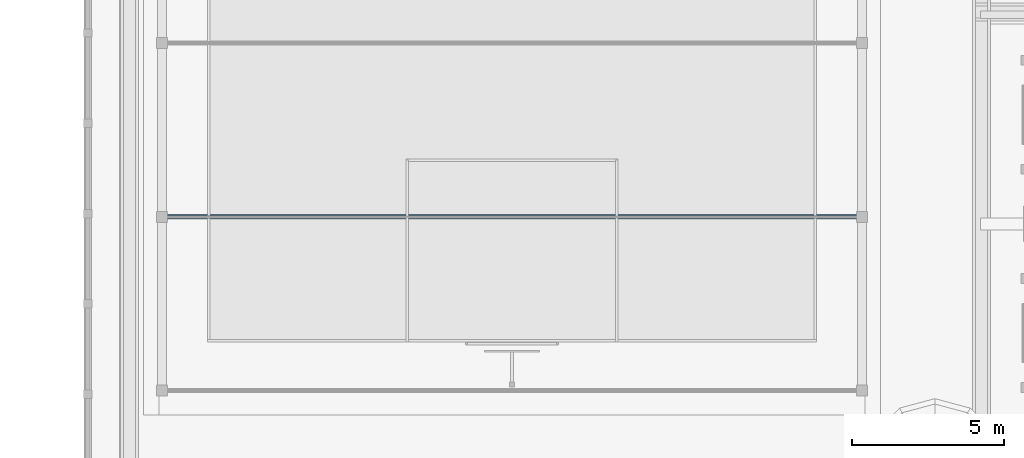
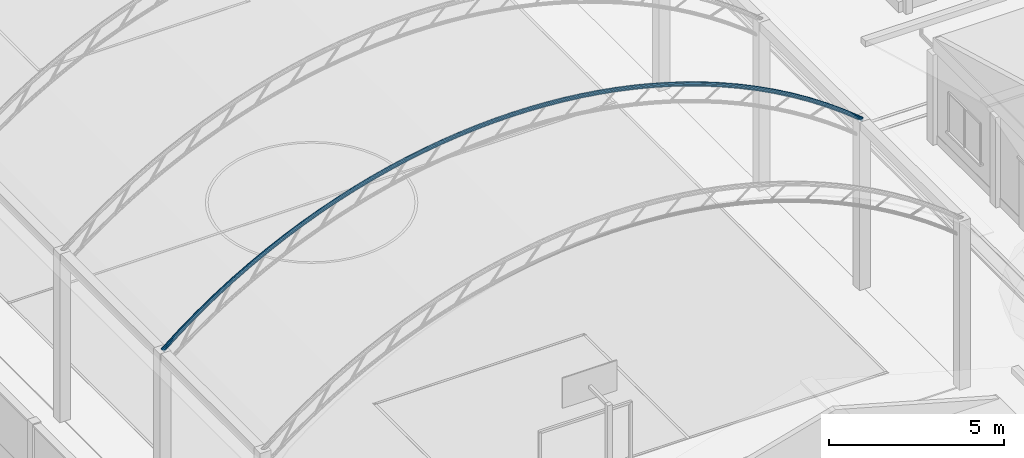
# One storey, part 19 of 177: 1 beam.
"""IFC4 building model written with IfcOpenShell, lengths in metres."""

from ifc_helpers import new_model, si_unit, origin, origin_with_axes, place, context, subcontext, project, spatial, triangles, element, save


model = new_model("IFC4")

# Units and contexts
model_context = context("Model", 3, precision=1e-05, world=origin_with_axes())
body_context = subcontext(model_context, "Body", "Model", "MODEL_VIEW")
ifc_project = project(units=[si_unit("LENGTHUNIT", "METRE"), si_unit("AREAUNIT", "SQUARE_METRE"), si_unit("VOLUMEUNIT", "CUBIC_METRE"), si_unit("PLANEANGLEUNIT", "RADIAN")], contexts=[model_context])

# Site, building, storey
site_placement = place(None, origin_with_axes())
site = spatial("IfcSite", under=ifc_project, at=site_placement, Name="Predio Los Mangos - Morales, San Martín", CompositionType="ELEMENT")
building_placement = place(site_placement, origin())
building = spatial("IfcBuilding", under=site, at=building_placement, Name="Hogar de Refugio Temporal", CompositionType="ELEMENT")
storey_placement = place(building_placement, origin())
storey = spatial("IfcBuildingStorey", under=building, at=storey_placement, Name="NIVEL 1 (NPT +0.00)", CompositionType="ELEMENT", Elevation=0.0)

# Beam
beam_placement = place(storey_placement, origin())
element("IfcBeam", 1, at=beam_placement, inside=storey, Name="arco", ObjectType="Viga", PredefinedType="BEAM", context=body_context, shape_type="Tessellation", body=[
    triangles([(3.4781, 98.394, 5.9773), (3.462, 98.3683, 5.9973), (3.4562, 98.3333, 6.0046), (3.462, 98.2983, 5.9973), (3.4781, 98.2727, 5.9773), (3.5, 98.2633, 5.95), (3.5219, 98.2727, 5.9227), (3.538, 98.2983, 5.9027), (3.5438, 98.3333, 5.8954), (3.538, 98.3683, 5.9027), (3.5219, 98.394, 5.9227), (3.5, 98.4033, 5.95), (4.0561, 98.394, 6.4418), (4.0405, 98.3683, 6.4621), (4.0348, 98.3333, 6.4695), (4.0405, 98.2983, 6.4621), (4.0561, 98.2727, 6.4418), (4.0775, 98.2633, 6.4141), (4.0989, 98.2727, 6.3864), (4.1145, 98.2983, 6.3661), (4.1202, 98.3333, 6.3586), (4.1145, 98.3683, 6.3661), (4.0989, 98.394, 6.3864), (4.0775, 98.4033, 6.4141), (4.6348, 98.394, 6.8694), (4.6199, 98.3683, 6.8903), (4.6145, 98.3333, 6.8979), (4.6199, 98.2983, 6.8903), (4.6348, 98.2727, 6.8694), (4.655, 98.2633, 6.8408), (4.6752, 98.2727, 6.8123), (4.6901, 98.2983, 6.7914), (4.6955, 98.3333, 6.7837), (4.6901, 98.3683, 6.7914), (4.6752, 98.394, 6.8123), (4.655, 98.4033, 6.8408), (5.2134, 98.394, 7.2627), (5.1994, 98.3683, 7.2841), (5.1943, 98.3333, 7.292), (5.1994, 98.2983, 7.2841), (5.2134, 98.2727, 7.2627), (5.2325, 98.2633, 7.2333), (5.2516, 98.2727, 7.204), (5.2656, 98.2983, 7.1826), (5.2707, 98.3333, 7.1747), (5.2656, 98.3683, 7.1826), (5.2516, 98.394, 7.204), (5.2325, 98.4033, 7.2333), (5.792, 98.394, 7.6243), (5.7788, 98.3683, 7.6463), (5.774, 98.3333, 7.6543), (5.7788, 98.2983, 7.6463), (5.792, 98.2727, 7.6243), (5.81, 98.2633, 7.5943), (5.828, 98.2727, 7.5643), (5.8412, 98.2983, 7.5423), (5.846, 98.3333, 7.5343), (5.8412, 98.3683, 7.5423), (5.828, 98.394, 7.5643), (5.81, 98.4033, 7.5943), (6.3706, 98.394, 7.9565), (6.3583, 98.3683, 7.979), (6.3538, 98.3333, 7.9872), (6.3583, 98.2983, 7.979), (6.3706, 98.2727, 7.9565), (6.3875, 98.2633, 7.9259), (6.4044, 98.2727, 7.8952), (6.4167, 98.2983, 7.8727), (6.4212, 98.3333, 7.8645), (6.4167, 98.3683, 7.8727), (6.4044, 98.394, 7.8952), (6.3875, 98.4033, 7.9259), (6.9493, 98.394, 8.2611), (6.9377, 98.3683, 8.284), (6.9335, 98.3333, 8.2923), (6.9377, 98.2983, 8.284), (6.9493, 98.2727, 8.2611), (6.965, 98.2633, 8.2298), (6.9807, 98.2727, 8.1986), (6.9923, 98.2983, 8.1757), (6.9965, 98.3333, 8.1673), (6.9923, 98.3683, 8.1757), (6.9807, 98.394, 8.1986), (6.965, 98.4033, 8.2298), (7.5279, 98.394, 8.5395), (7.5172, 98.3683, 8.5628), (7.5133, 98.3333, 8.5713), (7.5172, 98.2983, 8.5628), (7.5279, 98.2727, 8.5395), (7.5425, 98.2633, 8.5077), (7.5571, 98.2727, 8.4759), (7.5678, 98.2983, 8.4527), (7.5717, 98.3333, 8.4441), (7.5678, 98.3683, 8.4527), (7.5571, 98.394, 8.4759), (7.5425, 98.4033, 8.5077), (8.1065, 98.394, 8.7932), (8.0966, 98.3683, 8.8169), (8.093, 98.3333, 8.8255), (8.0966, 98.2983, 8.8169), (8.1065, 98.2727, 8.7932), (8.12, 98.2633, 8.7609), (8.1335, 98.2727, 8.7286), (8.1434, 98.2983, 8.705), (8.147, 98.3333, 8.6963), (8.1434, 98.3683, 8.705), (8.1335, 98.394, 8.7286), (8.12, 98.4033, 8.7609), (8.6851, 98.394, 9.0232), (8.6761, 98.3683, 9.0472), (8.6728, 98.3333, 9.056), (8.6761, 98.2983, 9.0472), (8.6851, 98.2727, 9.0232), (8.6975, 98.2633, 8.9905), (8.7099, 98.2727, 8.9578), (8.7189, 98.2983, 8.9338), (8.7222, 98.3333, 8.925), (8.7189, 98.3683, 8.9338), (8.7099, 98.394, 8.9578), (8.6975, 98.4033, 8.9905), (9.2638, 98.394, 9.2305), (9.2555, 98.3683, 9.2548), (9.2525, 98.3333, 9.2637), (9.2555, 98.2983, 9.2548), (9.2638, 98.2727, 9.2305), (9.275, 98.2633, 9.1974), (9.2862, 98.2727, 9.1642), (9.2945, 98.2983, 9.14), (9.2975, 98.3333, 9.1311), (9.2945, 98.3683, 9.14), (9.2862, 98.394, 9.1642), (9.275, 98.4033, 9.1974), (9.8424, 98.394, 9.416), (9.835, 98.3683, 9.4405), (9.8323, 98.3333, 9.4495), (9.835, 98.2983, 9.4405), (9.8424, 98.2727, 9.416), (9.8525, 98.2633, 9.3824), (9.8626, 98.2727, 9.3489), (9.87, 98.2983, 9.3244), (9.8727, 98.3333, 9.3154), (9.87, 98.3683, 9.3244), (9.8626, 98.394, 9.3489), (9.8525, 98.4033, 9.3824), (10.421, 98.394, 9.5802), (10.4144, 98.3683, 9.6049), (10.412, 98.3333, 9.614), (10.4144, 98.2983, 9.6049), (10.421, 98.2727, 9.5802), (10.43, 98.2633, 9.5463), (10.439, 98.2727, 9.5125), (10.4456, 98.2983, 9.4878), (10.448, 98.3333, 9.4787), (10.4456, 98.3683, 9.4878), (10.439, 98.394, 9.5125), (10.43, 98.4033, 9.5463), (10.9996, 98.394, 9.7238), (10.9939, 98.3683, 9.7488), (10.9918, 98.3333, 9.7579), (10.9939, 98.2983, 9.7488), (10.9996, 98.2727, 9.7238), (11.0075, 98.2633, 9.6897), (11.0154, 98.2727, 9.6556), (11.0211, 98.2983, 9.6306), (11.0232, 98.3333, 9.6215), (11.0211, 98.3683, 9.6306), (11.0154, 98.394, 9.6556), (11.0075, 98.4033, 9.6897), (11.5783, 98.394, 9.8473), (11.5733, 98.3683, 9.8725), (11.5715, 98.3333, 9.8817), (11.5733, 98.2983, 9.8725), (11.5783, 98.2727, 9.8473), (11.585, 98.2633, 9.813), (11.5917, 98.2727, 9.7786), (11.5967, 98.2983, 9.7535), (11.5985, 98.3333, 9.7443), (11.5967, 98.3683, 9.7535), (11.5917, 98.394, 9.7786), (11.585, 98.4033, 9.813), (12.1569, 98.394, 9.9512), (12.1528, 98.3683, 9.9765), (12.1513, 98.3333, 9.9857), (12.1528, 98.2983, 9.9765), (12.1569, 98.2727, 9.9512), (12.1625, 98.2633, 9.9166), (12.1681, 98.2727, 9.8821), (12.1722, 98.2983, 9.8568), (12.1737, 98.3333, 9.8476), (12.1722, 98.3683, 9.8568), (12.1681, 98.394, 9.8821), (12.1625, 98.4033, 9.9166), (12.7355, 98.394, 10.0357), (12.7322, 98.3683, 10.0611), (12.731, 98.3333, 10.0704), (12.7322, 98.2983, 10.0611), (12.7355, 98.2727, 10.0357), (12.74, 98.2633, 10.001), (12.7445, 98.2727, 9.9663), (12.7478, 98.2983, 9.9409), (12.749, 98.3333, 9.9316), (12.7478, 98.3683, 9.9409), (12.7445, 98.394, 9.9663), (12.74, 98.4033, 10.001), (13.3141, 98.394, 10.1012), (13.3117, 98.3683, 10.1267), (13.3108, 98.3333, 10.136), (13.3117, 98.2983, 10.1267), (13.3141, 98.2727, 10.1012), (13.3175, 98.2633, 10.0663), (13.3209, 98.2727, 10.0315), (13.3233, 98.2983, 10.006), (13.3242, 98.3333, 9.9967), (13.3233, 98.3683, 10.006), (13.3209, 98.394, 10.0315), (13.3175, 98.4033, 10.0663), (13.8928, 98.394, 10.1478), (13.8911, 98.3683, 10.1734), (13.8905, 98.3333, 10.1827), (13.8911, 98.2983, 10.1734), (13.8928, 98.2727, 10.1478), (13.895, 98.2633, 10.1129), (13.8972, 98.2727, 10.0779), (13.8989, 98.2983, 10.0524), (13.8995, 98.3333, 10.043), (13.8989, 98.3683, 10.0524), (13.8972, 98.394, 10.0779), (13.895, 98.4033, 10.1129), (14.4714, 98.394, 10.1757), (14.4706, 98.3683, 10.2013), (14.4703, 98.3333, 10.2107), (14.4706, 98.2983, 10.2013), (14.4714, 98.2727, 10.1757), (14.4725, 98.2633, 10.1407), (14.4736, 98.2727, 10.1057), (14.4744, 98.2983, 10.0801), (14.4747, 98.3333, 10.0708), (14.4744, 98.3683, 10.0801), (14.4736, 98.394, 10.1057), (14.4725, 98.4033, 10.1407), (15.05, 98.394, 10.185), (15.05, 98.3683, 10.2106), (15.05, 98.3333, 10.22), (15.05, 98.2983, 10.2106), (15.05, 98.2727, 10.185), (15.05, 98.2633, 10.15), (15.05, 98.2727, 10.115), (15.05, 98.2983, 10.0894), (15.05, 98.3333, 10.08), (15.05, 98.3683, 10.0894), (15.05, 98.394, 10.115), (15.05, 98.4033, 10.15), (15.6286, 98.394, 10.1757), (15.6294, 98.3683, 10.2013), (15.6297, 98.3333, 10.2107), (15.6294, 98.2983, 10.2013), (15.6286, 98.2727, 10.1757), (15.6275, 98.2633, 10.1407), (15.6264, 98.2727, 10.1057), (15.6256, 98.2983, 10.0801), (15.6253, 98.3333, 10.0708), (15.6256, 98.3683, 10.0801), (15.6264, 98.394, 10.1057), (15.6275, 98.4033, 10.1407), (16.2072, 98.394, 10.1478), (16.2089, 98.3683, 10.1734), (16.2095, 98.3333, 10.1827), (16.2089, 98.2983, 10.1734), (16.2072, 98.2727, 10.1478), (16.205, 98.2633, 10.1129), (16.2028, 98.2727, 10.0779), (16.2011, 98.2983, 10.0524), (16.2005, 98.3333, 10.043), (16.2011, 98.3683, 10.0524), (16.2028, 98.394, 10.0779), (16.205, 98.4033, 10.1129), (16.7859, 98.394, 10.1012), (16.7883, 98.3683, 10.1267), (16.7892, 98.3333, 10.136), (16.7883, 98.2983, 10.1267), (16.7859, 98.2727, 10.1012), (16.7825, 98.2633, 10.0663), (16.7791, 98.2727, 10.0315), (16.7767, 98.2983, 10.006), (16.7758, 98.3333, 9.9967), (16.7767, 98.3683, 10.006), (16.7791, 98.394, 10.0315), (16.7825, 98.4033, 10.0663), (17.3645, 98.394, 10.0357), (17.3678, 98.3683, 10.0611), (17.369, 98.3333, 10.0704), (17.3678, 98.2983, 10.0611), (17.3645, 98.2727, 10.0357), (17.36, 98.2633, 10.001), (17.3555, 98.2727, 9.9663), (17.3522, 98.2983, 9.9409), (17.351, 98.3333, 9.9316), (17.3522, 98.3683, 9.9409), (17.3555, 98.394, 9.9663), (17.36, 98.4033, 10.001), (17.9431, 98.394, 9.9512), (17.9472, 98.3683, 9.9765), (17.9487, 98.3333, 9.9857), (17.9472, 98.2983, 9.9765), (17.9431, 98.2727, 9.9512), (17.9375, 98.2633, 9.9166), (17.9319, 98.2727, 9.8821), (17.9278, 98.2983, 9.8568), (17.9263, 98.3333, 9.8476), (17.9278, 98.3683, 9.8568), (17.9319, 98.394, 9.8821), (17.9375, 98.4033, 9.9166), (18.5217, 98.394, 9.8473), (18.5267, 98.3683, 9.8725), (18.5285, 98.3333, 9.8817), (18.5267, 98.2983, 9.8725), (18.5217, 98.2727, 9.8473), (18.515, 98.2633, 9.813), (18.5083, 98.2727, 9.7786), (18.5033, 98.2983, 9.7535), (18.5015, 98.3333, 9.7443), (18.5033, 98.3683, 9.7535), (18.5083, 98.394, 9.7786), (18.515, 98.4033, 9.813), (19.1004, 98.394, 9.7238), (19.1061, 98.3683, 9.7488), (19.1082, 98.3333, 9.7579), (19.1061, 98.2983, 9.7488), (19.1004, 98.2727, 9.7238), (19.0925, 98.2633, 9.6897), (19.0846, 98.2727, 9.6556), (19.0789, 98.2983, 9.6306), (19.0768, 98.3333, 9.6215), (19.0789, 98.3683, 9.6306), (19.0846, 98.394, 9.6556), (19.0925, 98.4033, 9.6897), (19.679, 98.394, 9.5802), (19.6856, 98.3683, 9.6049), (19.688, 98.3333, 9.614), (19.6856, 98.2983, 9.6049), (19.679, 98.2727, 9.5802), (19.67, 98.2633, 9.5463), (19.661, 98.2727, 9.5125), (19.6544, 98.2983, 9.4878), (19.652, 98.3333, 9.4787), (19.6544, 98.3683, 9.4878), (19.661, 98.394, 9.5125), (19.67, 98.4033, 9.5463), (20.2576, 98.394, 9.416), (20.265, 98.3683, 9.4405), (20.2677, 98.3333, 9.4495), (20.265, 98.2983, 9.4405), (20.2576, 98.2727, 9.416), (20.2475, 98.2633, 9.3824), (20.2374, 98.2727, 9.3489), (20.23, 98.2983, 9.3244), (20.2273, 98.3333, 9.3154), (20.23, 98.3683, 9.3244), (20.2374, 98.394, 9.3489), (20.2475, 98.4033, 9.3824), (20.8362, 98.394, 9.2305), (20.8445, 98.3683, 9.2548), (20.8475, 98.3333, 9.2637), (20.8445, 98.2983, 9.2548), (20.8362, 98.2727, 9.2305), (20.825, 98.2633, 9.1974), (20.8138, 98.2727, 9.1642), (20.8055, 98.2983, 9.14), (20.8025, 98.3333, 9.1311), (20.8055, 98.3683, 9.14), (20.8138, 98.394, 9.1642), (20.825, 98.4033, 9.1974), (21.4149, 98.394, 9.0232), (21.4239, 98.3683, 9.0472), (21.4272, 98.3333, 9.056), (21.4239, 98.2983, 9.0472), (21.4149, 98.2727, 9.0232), (21.4025, 98.2633, 8.9905), (21.3901, 98.2727, 8.9578), (21.3811, 98.2983, 8.9338), (21.3778, 98.3333, 8.925), (21.3811, 98.3683, 8.9338), (21.3901, 98.394, 8.9578), (21.4025, 98.4033, 8.9905), (21.9935, 98.394, 8.7932), (22.0034, 98.3683, 8.8169), (22.007, 98.3333, 8.8255), (22.0034, 98.2983, 8.8169), (21.9935, 98.2727, 8.7932), (21.98, 98.2633, 8.7609), (21.9665, 98.2727, 8.7286), (21.9566, 98.2983, 8.705), (21.953, 98.3333, 8.6963), (21.9566, 98.3683, 8.705), (21.9665, 98.394, 8.7286), (21.98, 98.4033, 8.7609), (22.5721, 98.394, 8.5395), (22.5828, 98.3683, 8.5628), (22.5867, 98.3333, 8.5713), (22.5828, 98.2983, 8.5628), (22.5721, 98.2727, 8.5395), (22.5575, 98.2633, 8.5077), (22.5429, 98.2727, 8.4759), (22.5322, 98.2983, 8.4527), (22.5283, 98.3333, 8.4441), (22.5322, 98.3683, 8.4527), (22.5429, 98.394, 8.4759), (22.5575, 98.4033, 8.5077), (23.1507, 98.394, 8.2611), (23.1623, 98.3683, 8.284), (23.1665, 98.3333, 8.2923), (23.1623, 98.2983, 8.284), (23.1507, 98.2727, 8.2611), (23.135, 98.2633, 8.2298), (23.1193, 98.2727, 8.1986), (23.1077, 98.2983, 8.1757), (23.1035, 98.3333, 8.1673), (23.1077, 98.3683, 8.1757), (23.1193, 98.394, 8.1986), (23.135, 98.4033, 8.2298), (23.7294, 98.394, 7.9565), (23.7417, 98.3683, 7.979), (23.7462, 98.3333, 7.9872), (23.7417, 98.2983, 7.979), (23.7294, 98.2727, 7.9565), (23.7125, 98.2633, 7.9259), (23.6956, 98.2727, 7.8952), (23.6833, 98.2983, 7.8727), (23.6788, 98.3333, 7.8645), (23.6833, 98.3683, 7.8727), (23.6956, 98.394, 7.8952), (23.7125, 98.4033, 7.9259), (24.308, 98.394, 7.6243), (24.3212, 98.3683, 7.6463), (24.326, 98.3333, 7.6543), (24.3212, 98.2983, 7.6463), (24.308, 98.2727, 7.6243), (24.29, 98.2633, 7.5943), (24.272, 98.2727, 7.5643), (24.2588, 98.2983, 7.5423), (24.254, 98.3333, 7.5343), (24.2588, 98.3683, 7.5423), (24.272, 98.394, 7.5643), (24.29, 98.4033, 7.5943), (24.8866, 98.394, 7.2627), (24.9006, 98.3683, 7.2841), (24.9057, 98.3333, 7.292), (24.9006, 98.2983, 7.2841), (24.8866, 98.2727, 7.2627), (24.8675, 98.2633, 7.2333), (24.8484, 98.2727, 7.204), (24.8344, 98.2983, 7.1826), (24.8293, 98.3333, 7.1747), (24.8344, 98.3683, 7.1826), (24.8484, 98.394, 7.204), (24.8675, 98.4033, 7.2333), (25.4652, 98.394, 6.8694), (25.4801, 98.3683, 6.8903), (25.4855, 98.3333, 6.8979), (25.4801, 98.2983, 6.8903), (25.4652, 98.2727, 6.8694), (25.445, 98.2633, 6.8408), (25.4248, 98.2727, 6.8123), (25.4099, 98.2983, 6.7914), (25.4045, 98.3333, 6.7837), (25.4099, 98.3683, 6.7914), (25.4248, 98.394, 6.8123), (25.445, 98.4033, 6.8408), (26.0439, 98.394, 6.4418), (26.0595, 98.3683, 6.4621), (26.0652, 98.3333, 6.4695), (26.0595, 98.2983, 6.4621), (26.0439, 98.2727, 6.4418), (26.0225, 98.2633, 6.4141), (26.0011, 98.2727, 6.3864), (25.9855, 98.2983, 6.3661), (25.9798, 98.3333, 6.3586), (25.9855, 98.3683, 6.3661), (26.0011, 98.394, 6.3864), (26.0225, 98.4033, 6.4141), (26.6219, 98.394, 5.9773), (26.638, 98.3683, 5.9973), (26.6438, 98.3333, 6.0046), (26.638, 98.2983, 5.9973), (26.6219, 98.2727, 5.9773), (26.6, 98.2633, 5.95), (26.5781, 98.2727, 5.9227), (26.562, 98.2983, 5.9027), (26.5562, 98.3333, 5.8954), (26.562, 98.3683, 5.9027), (26.5781, 98.394, 5.9227), (26.6, 98.4033, 5.95)], [[1, 13, 24], [1, 24, 12], [2, 14, 13], [2, 13, 1], [3, 15, 14], [3, 14, 2], [4, 16, 15], [4, 15, 3], [5, 17, 16], [5, 16, 4], [6, 18, 17], [6, 17, 5], [7, 19, 18], [7, 18, 6], [8, 20, 19], [8, 19, 7], [9, 21, 20], [9, 20, 8], [10, 22, 21], [10, 21, 9], [11, 23, 22], [11, 22, 10], [12, 24, 23], [12, 23, 11], [13, 25, 36], [13, 36, 24], [14, 26, 25], [14, 25, 13], [15, 27, 26], [15, 26, 14], [16, 28, 27], [16, 27, 15], [17, 29, 28], [17, 28, 16], [18, 30, 29], [18, 29, 17], [19, 31, 30], [19, 30, 18], [20, 32, 31], [20, 31, 19], [21, 33, 32], [21, 32, 20], [22, 34, 33], [22, 33, 21], [23, 35, 34], [23, 34, 22], [24, 36, 35], [24, 35, 23], [25, 37, 48], [25, 48, 36], [26, 38, 37], [26, 37, 25], [27, 39, 38], [27, 38, 26], [28, 40, 39], [28, 39, 27], [29, 41, 40], [29, 40, 28], [30, 42, 41], [30, 41, 29], [31, 43, 42], [31, 42, 30], [32, 44, 43], [32, 43, 31], [33, 45, 44], [33, 44, 32], [34, 46, 45], [34, 45, 33], [35, 47, 46], [35, 46, 34], [36, 48, 47], [36, 47, 35], [37, 49, 60], [37, 60, 48], [38, 50, 49], [38, 49, 37], [39, 51, 50], [39, 50, 38], [40, 52, 51], [40, 51, 39], [41, 53, 52], [41, 52, 40], [42, 54, 53], [42, 53, 41], [43, 55, 54], [43, 54, 42], [44, 56, 55], [44, 55, 43], [45, 57, 56], [45, 56, 44], [46, 58, 57], [46, 57, 45], [47, 59, 58], [47, 58, 46], [48, 60, 59], [48, 59, 47], [49, 61, 72], [49, 72, 60], [50, 62, 61], [50, 61, 49], [51, 63, 62], [51, 62, 50], [52, 64, 63], [52, 63, 51], [53, 65, 64], [53, 64, 52], [54, 66, 65], [54, 65, 53], [55, 67, 66], [55, 66, 54], [56, 68, 67], [56, 67, 55], [57, 69, 68], [57, 68, 56], [58, 70, 69], [58, 69, 57], [59, 71, 70], [59, 70, 58], [60, 72, 71], [60, 71, 59], [61, 73, 84], [61, 84, 72], [62, 74, 73], [62, 73, 61], [63, 75, 74], [63, 74, 62], [64, 76, 75], [64, 75, 63], [65, 77, 76], [65, 76, 64], [66, 78, 77], [66, 77, 65], [67, 79, 78], [67, 78, 66], [68, 80, 79], [68, 79, 67], [69, 81, 80], [69, 80, 68], [70, 82, 81], [70, 81, 69], [71, 83, 82], [71, 82, 70], [72, 84, 83], [72, 83, 71], [73, 85, 96], [73, 96, 84], [74, 86, 85], [74, 85, 73], [75, 87, 86], [75, 86, 74], [76, 88, 87], [76, 87, 75], [77, 89, 88], [77, 88, 76], [78, 90, 89], [78, 89, 77], [79, 91, 90], [79, 90, 78], [80, 92, 91], [80, 91, 79], [81, 93, 92], [81, 92, 80], [82, 94, 93], [82, 93, 81], [83, 95, 94], [83, 94, 82], [84, 96, 95], [84, 95, 83], [85, 97, 108], [85, 108, 96], [86, 98, 97], [86, 97, 85], [87, 99, 98], [87, 98, 86], [88, 100, 99], [88, 99, 87], [89, 101, 100], [89, 100, 88], [90, 102, 101], [90, 101, 89], [91, 103, 102], [91, 102, 90], [92, 104, 103], [92, 103, 91], [93, 105, 104], [93, 104, 92], [94, 106, 105], [94, 105, 93], [95, 107, 106], [95, 106, 94], [96, 108, 107], [96, 107, 95], [97, 109, 120], [97, 120, 108], [98, 110, 109], [98, 109, 97], [99, 111, 110], [99, 110, 98], [100, 112, 111], [100, 111, 99], [101, 113, 112], [101, 112, 100], [102, 114, 113], [102, 113, 101], [103, 115, 114], [103, 114, 102], [104, 116, 115], [104, 115, 103], [105, 117, 116], [105, 116, 104], [106, 118, 117], [106, 117, 105], [107, 119, 118], [107, 118, 106], [108, 120, 119], [108, 119, 107], [109, 121, 132], [109, 132, 120], [110, 122, 121], [110, 121, 109], [111, 123, 122], [111, 122, 110], [112, 124, 123], [112, 123, 111], [113, 125, 124], [113, 124, 112], [114, 126, 125], [114, 125, 113], [115, 127, 126], [115, 126, 114], [116, 128, 127], [116, 127, 115], [117, 129, 128], [117, 128, 116], [118, 130, 129], [118, 129, 117], [119, 131, 130], [119, 130, 118], [120, 132, 131], [120, 131, 119], [121, 133, 144], [121, 144, 132], [122, 134, 133], [122, 133, 121], [123, 135, 134], [123, 134, 122], [124, 136, 135], [124, 135, 123], [125, 137, 136], [125, 136, 124], [126, 138, 137], [126, 137, 125], [127, 139, 138], [127, 138, 126], [128, 140, 139], [128, 139, 127], [129, 141, 140], [129, 140, 128], [130, 142, 141], [130, 141, 129], [131, 143, 142], [131, 142, 130], [132, 144, 143], [132, 143, 131], [133, 145, 156], [133, 156, 144], [134, 146, 145], [134, 145, 133], [135, 147, 146], [135, 146, 134], [136, 148, 147], [136, 147, 135], [137, 149, 148], [137, 148, 136], [138, 150, 149], [138, 149, 137], [139, 151, 150], [139, 150, 138], [140, 152, 151], [140, 151, 139], [141, 153, 152], [141, 152, 140], [142, 154, 153], [142, 153, 141], [143, 155, 154], [143, 154, 142], [144, 156, 155], [144, 155, 143], [145, 157, 168], [145, 168, 156], [146, 158, 157], [146, 157, 145], [147, 159, 158], [147, 158, 146], [148, 160, 159], [148, 159, 147], [149, 161, 160], [149, 160, 148], [150, 162, 161], [150, 161, 149], [151, 163, 162], [151, 162, 150], [152, 164, 163], [152, 163, 151], [153, 165, 164], [153, 164, 152], [154, 166, 165], [154, 165, 153], [155, 167, 166], [155, 166, 154], [156, 168, 167], [156, 167, 155], [157, 169, 180], [157, 180, 168], [158, 170, 169], [158, 169, 157], [159, 171, 170], [159, 170, 158], [160, 172, 171], [160, 171, 159], [161, 173, 172], [161, 172, 160], [162, 174, 173], [162, 173, 161], [163, 175, 174], [163, 174, 162], [164, 176, 175], [164, 175, 163], [165, 177, 176], [165, 176, 164], [166, 178, 177], [166, 177, 165], [167, 179, 178], [167, 178, 166], [168, 180, 179], [168, 179, 167], [169, 181, 192], [169, 192, 180], [170, 182, 181], [170, 181, 169], [171, 183, 182], [171, 182, 170], [172, 184, 183], [172, 183, 171], [173, 185, 184], [173, 184, 172], [174, 186, 185], [174, 185, 173], [175, 187, 186], [175, 186, 174], [176, 188, 187], [176, 187, 175], [177, 189, 188], [177, 188, 176], [178, 190, 189], [178, 189, 177], [179, 191, 190], [179, 190, 178], [180, 192, 191], [180, 191, 179], [181, 193, 204], [181, 204, 192], [182, 194, 193], [182, 193, 181], [183, 195, 194], [183, 194, 182], [184, 196, 195], [184, 195, 183], [185, 197, 196], [185, 196, 184], [186, 198, 197], [186, 197, 185], [187, 199, 198], [187, 198, 186], [188, 200, 199], [188, 199, 187], [189, 201, 200], [189, 200, 188], [190, 202, 201], [190, 201, 189], [191, 203, 202], [191, 202, 190], [192, 204, 203], [192, 203, 191], [193, 205, 216], [193, 216, 204], [194, 206, 205], [194, 205, 193], [195, 207, 206], [195, 206, 194], [196, 208, 207], [196, 207, 195], [197, 209, 208], [197, 208, 196], [198, 210, 209], [198, 209, 197], [199, 211, 210], [199, 210, 198], [200, 212, 211], [200, 211, 199], [201, 213, 212], [201, 212, 200], [202, 214, 213], [202, 213, 201], [203, 215, 214], [203, 214, 202], [204, 216, 215], [204, 215, 203], [205, 217, 228], [205, 228, 216], [206, 218, 217], [206, 217, 205], [207, 219, 218], [207, 218, 206], [208, 220, 219], [208, 219, 207], [209, 221, 220], [209, 220, 208], [210, 222, 221], [210, 221, 209], [211, 223, 222], [211, 222, 210], [212, 224, 223], [212, 223, 211], [213, 225, 224], [213, 224, 212], [214, 226, 225], [214, 225, 213], [215, 227, 226], [215, 226, 214], [216, 228, 227], [216, 227, 215], [217, 229, 240], [217, 240, 228], [218, 230, 229], [218, 229, 217], [219, 231, 230], [219, 230, 218], [220, 232, 231], [220, 231, 219], [221, 233, 232], [221, 232, 220], [222, 234, 233], [222, 233, 221], [223, 235, 234], [223, 234, 222], [224, 236, 235], [224, 235, 223], [225, 237, 236], [225, 236, 224], [226, 238, 237], [226, 237, 225], [227, 239, 238], [227, 238, 226], [228, 240, 239], [228, 239, 227], [229, 241, 252], [229, 252, 240], [230, 242, 241], [230, 241, 229], [231, 243, 242], [231, 242, 230], [232, 244, 243], [232, 243, 231], [233, 245, 244], [233, 244, 232], [234, 246, 245], [234, 245, 233], [235, 247, 246], [235, 246, 234], [236, 248, 247], [236, 247, 235], [237, 249, 248], [237, 248, 236], [238, 250, 249], [238, 249, 237], [239, 251, 250], [239, 250, 238], [240, 252, 251], [240, 251, 239], [241, 253, 264], [241, 264, 252], [242, 254, 253], [242, 253, 241], [243, 255, 254], [243, 254, 242], [244, 256, 255], [244, 255, 243], [245, 257, 256], [245, 256, 244], [246, 258, 257], [246, 257, 245], [247, 259, 258], [247, 258, 246], [248, 260, 259], [248, 259, 247], [249, 261, 260], [249, 260, 248], [250, 262, 261], [250, 261, 249], [251, 263, 262], [251, 262, 250], [252, 264, 263], [252, 263, 251], [253, 265, 276], [253, 276, 264], [254, 266, 265], [254, 265, 253], [255, 267, 266], [255, 266, 254], [256, 268, 267], [256, 267, 255], [257, 269, 268], [257, 268, 256], [258, 270, 269], [258, 269, 257], [259, 271, 270], [259, 270, 258], [260, 272, 271], [260, 271, 259], [261, 273, 272], [261, 272, 260], [262, 274, 273], [262, 273, 261], [263, 275, 274], [263, 274, 262], [264, 276, 275], [264, 275, 263], [265, 277, 288], [265, 288, 276], [266, 278, 277], [266, 277, 265], [267, 279, 278], [267, 278, 266], [268, 280, 279], [268, 279, 267], [269, 281, 280], [269, 280, 268], [270, 282, 281], [270, 281, 269], [271, 283, 282], [271, 282, 270], [272, 284, 283], [272, 283, 271], [273, 285, 284], [273, 284, 272], [274, 286, 285], [274, 285, 273], [275, 287, 286], [275, 286, 274], [276, 288, 287], [276, 287, 275], [277, 289, 300], [277, 300, 288], [278, 290, 289], [278, 289, 277], [279, 291, 290], [279, 290, 278], [280, 292, 291], [280, 291, 279], [281, 293, 292], [281, 292, 280], [282, 294, 293], [282, 293, 281], [283, 295, 294], [283, 294, 282], [284, 296, 295], [284, 295, 283], [285, 297, 296], [285, 296, 284], [286, 298, 297], [286, 297, 285], [287, 299, 298], [287, 298, 286], [288, 300, 299], [288, 299, 287], [289, 301, 312], [289, 312, 300], [290, 302, 301], [290, 301, 289], [291, 303, 302], [291, 302, 290], [292, 304, 303], [292, 303, 291], [293, 305, 304], [293, 304, 292], [294, 306, 305], [294, 305, 293], [295, 307, 306], [295, 306, 294], [296, 308, 307], [296, 307, 295], [297, 309, 308], [297, 308, 296], [298, 310, 309], [298, 309, 297], [299, 311, 310], [299, 310, 298], [300, 312, 311], [300, 311, 299], [301, 313, 324], [301, 324, 312], [302, 314, 313], [302, 313, 301], [303, 315, 314], [303, 314, 302], [304, 316, 315], [304, 315, 303], [305, 317, 316], [305, 316, 304], [306, 318, 317], [306, 317, 305], [307, 319, 318], [307, 318, 306], [308, 320, 319], [308, 319, 307], [309, 321, 320], [309, 320, 308], [310, 322, 321], [310, 321, 309], [311, 323, 322], [311, 322, 310], [312, 324, 323], [312, 323, 311], [313, 325, 336], [313, 336, 324], [314, 326, 325], [314, 325, 313], [315, 327, 326], [315, 326, 314], [316, 328, 327], [316, 327, 315], [317, 329, 328], [317, 328, 316], [318, 330, 329], [318, 329, 317], [319, 331, 330], [319, 330, 318], [320, 332, 331], [320, 331, 319], [321, 333, 332], [321, 332, 320], [322, 334, 333], [322, 333, 321], [323, 335, 334], [323, 334, 322], [324, 336, 335], [324, 335, 323], [325, 337, 348], [325, 348, 336], [326, 338, 337], [326, 337, 325], [327, 339, 338], [327, 338, 326], [328, 340, 339], [328, 339, 327], [329, 341, 340], [329, 340, 328], [330, 342, 341], [330, 341, 329], [331, 343, 342], [331, 342, 330], [332, 344, 343], [332, 343, 331], [333, 345, 344], [333, 344, 332], [334, 346, 345], [334, 345, 333], [335, 347, 346], [335, 346, 334], [336, 348, 347], [336, 347, 335], [337, 349, 360], [337, 360, 348], [338, 350, 349], [338, 349, 337], [339, 351, 350], [339, 350, 338], [340, 352, 351], [340, 351, 339], [341, 353, 352], [341, 352, 340], [342, 354, 353], [342, 353, 341], [343, 355, 354], [343, 354, 342], [344, 356, 355], [344, 355, 343], [345, 357, 356], [345, 356, 344], [346, 358, 357], [346, 357, 345], [347, 359, 358], [347, 358, 346], [348, 360, 359], [348, 359, 347], [349, 361, 372], [349, 372, 360], [350, 362, 361], [350, 361, 349], [351, 363, 362], [351, 362, 350], [352, 364, 363], [352, 363, 351], [353, 365, 364], [353, 364, 352], [354, 366, 365], [354, 365, 353], [355, 367, 366], [355, 366, 354], [356, 368, 367], [356, 367, 355], [357, 369, 368], [357, 368, 356], [358, 370, 369], [358, 369, 357], [359, 371, 370], [359, 370, 358], [360, 372, 371], [360, 371, 359], [361, 373, 384], [361, 384, 372], [362, 374, 373], [362, 373, 361], [363, 375, 374], [363, 374, 362], [364, 376, 375], [364, 375, 363], [365, 377, 376], [365, 376, 364], [366, 378, 377], [366, 377, 365], [367, 379, 378], [367, 378, 366], [368, 380, 379], [368, 379, 367], [369, 381, 380], [369, 380, 368], [370, 382, 381], [370, 381, 369], [371, 383, 382], [371, 382, 370], [372, 384, 383], [372, 383, 371], [373, 385, 396], [373, 396, 384], [374, 386, 385], [374, 385, 373], [375, 387, 386], [375, 386, 374], [376, 388, 387], [376, 387, 375], [377, 389, 388], [377, 388, 376], [378, 390, 389], [378, 389, 377], [379, 391, 390], [379, 390, 378], [380, 392, 391], [380, 391, 379], [381, 393, 392], [381, 392, 380], [382, 394, 393], [382, 393, 381], [383, 395, 394], [383, 394, 382], [384, 396, 395], [384, 395, 383], [385, 397, 408], [385, 408, 396], [386, 398, 397], [386, 397, 385], [387, 399, 398], [387, 398, 386], [388, 400, 399], [388, 399, 387], [389, 401, 400], [389, 400, 388], [390, 402, 401], [390, 401, 389], [391, 403, 402], [391, 402, 390], [392, 404, 403], [392, 403, 391], [393, 405, 404], [393, 404, 392], [394, 406, 405], [394, 405, 393], [395, 407, 406], [395, 406, 394], [396, 408, 407], [396, 407, 395], [397, 409, 420], [397, 420, 408], [398, 410, 409], [398, 409, 397], [399, 411, 410], [399, 410, 398], [400, 412, 411], [400, 411, 399], [401, 413, 412], [401, 412, 400], [402, 414, 413], [402, 413, 401], [403, 415, 414], [403, 414, 402], [404, 416, 415], [404, 415, 403], [405, 417, 416], [405, 416, 404], [406, 418, 417], [406, 417, 405], [407, 419, 418], [407, 418, 406], [408, 420, 419], [408, 419, 407], [409, 421, 432], [409, 432, 420], [410, 422, 421], [410, 421, 409], [411, 423, 422], [411, 422, 410], [412, 424, 423], [412, 423, 411], [413, 425, 424], [413, 424, 412], [414, 426, 425], [414, 425, 413], [415, 427, 426], [415, 426, 414], [416, 428, 427], [416, 427, 415], [417, 429, 428], [417, 428, 416], [418, 430, 429], [418, 429, 417], [419, 431, 430], [419, 430, 418], [420, 432, 431], [420, 431, 419], [421, 433, 444], [421, 444, 432], [422, 434, 433], [422, 433, 421], [423, 435, 434], [423, 434, 422], [424, 436, 435], [424, 435, 423], [425, 437, 436], [425, 436, 424], [426, 438, 437], [426, 437, 425], [427, 439, 438], [427, 438, 426], [428, 440, 439], [428, 439, 427], [429, 441, 440], [429, 440, 428], [430, 442, 441], [430, 441, 429], [431, 443, 442], [431, 442, 430], [432, 444, 443], [432, 443, 431], [433, 445, 456], [433, 456, 444], [434, 446, 445], [434, 445, 433], [435, 447, 446], [435, 446, 434], [436, 448, 447], [436, 447, 435], [437, 449, 448], [437, 448, 436], [438, 450, 449], [438, 449, 437], [439, 451, 450], [439, 450, 438], [440, 452, 451], [440, 451, 439], [441, 453, 452], [441, 452, 440], [442, 454, 453], [442, 453, 441], [443, 455, 454], [443, 454, 442], [444, 456, 455], [444, 455, 443], [445, 457, 468], [445, 468, 456], [446, 458, 457], [446, 457, 445], [447, 459, 458], [447, 458, 446], [448, 460, 459], [448, 459, 447], [449, 461, 460], [449, 460, 448], [450, 462, 461], [450, 461, 449], [451, 463, 462], [451, 462, 450], [452, 464, 463], [452, 463, 451], [453, 465, 464], [453, 464, 452], [454, 466, 465], [454, 465, 453], [455, 467, 466], [455, 466, 454], [456, 468, 467], [456, 467, 455], [457, 469, 480], [457, 480, 468], [458, 470, 469], [458, 469, 457], [459, 471, 470], [459, 470, 458], [460, 472, 471], [460, 471, 459], [461, 473, 472], [461, 472, 460], [462, 474, 473], [462, 473, 461], [463, 475, 474], [463, 474, 462], [464, 476, 475], [464, 475, 463], [465, 477, 476], [465, 476, 464], [466, 478, 477], [466, 477, 465], [467, 479, 478], [467, 478, 466], [468, 480, 479], [468, 479, 467], [469, 481, 492], [469, 492, 480], [470, 482, 481], [470, 481, 469], [471, 483, 482], [471, 482, 470], [472, 484, 483], [472, 483, 471], [473, 485, 484], [473, 484, 472], [474, 486, 485], [474, 485, 473], [475, 487, 486], [475, 486, 474], [476, 488, 487], [476, 487, 475], [477, 489, 488], [477, 488, 476], [478, 490, 489], [478, 489, 477], [479, 491, 490], [479, 490, 478], [480, 492, 491], [480, 491, 479]]),
])

save(model, "model.ifc")
